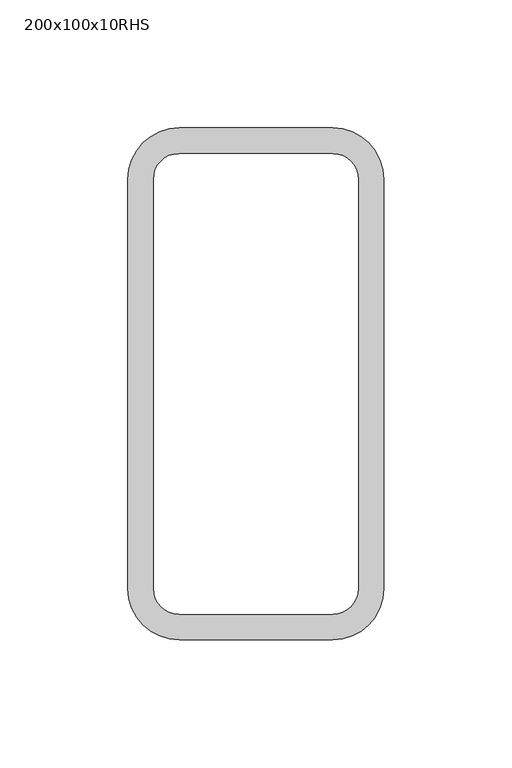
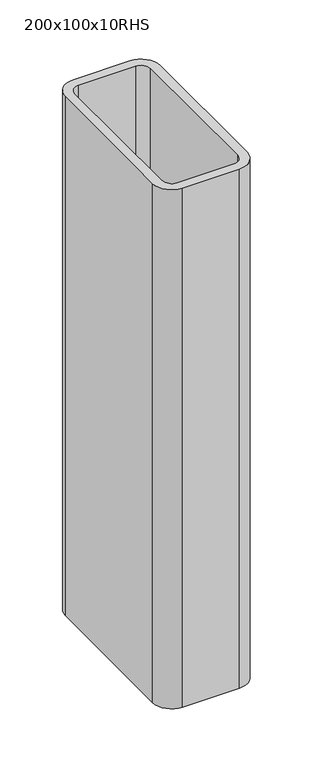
"""IFC4 building model written with IfcOpenShell, lengths in millimetres: column geometry, ППС-Прямоугольное пустотелое сечение-Колонна : 200x100x10RHS."""

from ifc_helpers import new_model, si_unit, point, frame, frame_2d, origin, place, context, project, spatial, polyline, circle_curve, trimmed, segment, composite_curve, outline, extrude, source, transform, mapped, element, save


def column_200x100x10rhs_d5a4da81(model_context):
    return source(origin(), model_context, "Body", "SweptSolid", [
        extrude(outline(composite_curve([segment(trimmed(circle_curve(frame_2d((30.0, 80.0)), 20.0), [point((30.0, 100.0))], [point((50.0, 80.0))], False, "CARTESIAN"), True, "CONTINUOUS"), segment(polyline([(50.0, 80.0), (50.0, -80.0)]), True, "CONTINUOUS"), segment(trimmed(circle_curve(frame_2d((30.0, -80.0)), 20.0), [point((50.0, -80.0))], [point((30.0, -100.0))], False, "CARTESIAN"), True, "CONTINUOUS"), segment(polyline([(30.0, -100.0), (-30.0, -100.0)]), True, "CONTINUOUS"), segment(trimmed(circle_curve(frame_2d((-30.0, -80.0)), 20.0), [point((-30.0, -100.0))], [point((-50.0, -80.0))], False, "CARTESIAN"), True, "CONTINUOUS"), segment(polyline([(-50.0, -80.0), (-50.0, 80.0)]), True, "CONTINUOUS"), segment(trimmed(circle_curve(frame_2d((-30.0, 80.0)), 20.0), [point((-50.0, 80.0))], [point((-30.0, 100.0))], False, "CARTESIAN"), True, "CONTINUOUS"), segment(polyline([(-30.0, 100.0), (30.0, 100.0)]), True, "CONTINUOUS")], self_intersect=False), holes=[composite_curve([segment(polyline([(30.0, 90.0), (-30.0, 90.0)]), True, "CONTINUOUS"), segment(trimmed(circle_curve(frame_2d((-30.0, 80.0)), 10.0), [point((-30.0, 90.0))], [point((-40.0, 80.0))], True, "CARTESIAN"), True, "CONTINUOUS"), segment(polyline([(-40.0, 80.0), (-40.0, -80.0)]), True, "CONTINUOUS"), segment(trimmed(circle_curve(frame_2d((-30.0, -80.0)), 10.0), [point((-40.0, -80.0))], [point((-30.0, -90.0))], True, "CARTESIAN"), True, "CONTINUOUS"), segment(polyline([(-30.0, -90.0), (30.0, -90.0)]), True, "CONTINUOUS"), segment(trimmed(circle_curve(frame_2d((30.0, -80.0)), 10.0), [point((30.0, -90.0))], [point((40.0, -80.0))], True, "CARTESIAN"), True, "CONTINUOUS"), segment(polyline([(40.0, -80.0), (40.0, 80.0)]), True, "CONTINUOUS"), segment(trimmed(circle_curve(frame_2d((30.0, 80.0)), 10.0), [point((40.0, 80.0))], [point((30.0, 90.0))], True, "CARTESIAN"), True, "CONTINUOUS")], self_intersect=False)]), frame((0.0, 0.0, 5245.0), z_axis=(0.0, 0.0, 1.0), x_axis=(1.0, 0.0, 0.0)), (0.0, 0.0, 1.0), 580.0),
    ])


if __name__ == "__main__":
    model = new_model("IFC4")
    model_context = context("Model", 3, world=origin())
    ifc_project = project(units=[si_unit("LENGTHUNIT", "METRE", prefix="MILLI")], contexts=[model_context])
    site = spatial("IfcSite", under=ifc_project)
    building = spatial("IfcBuilding", under=site)
    placement = place(None, origin())
    column_200x100x10rhs_shape = column_200x100x10rhs_d5a4da81(model_context)
    element("IfcColumn", 1, ObjectType="ППС-Прямоугольное пустотелое сечение-Колонна : 200x100x10RHS", at=placement, inside=building, context=model_context, shape_type="MappedRepresentation", body=[
        mapped(column_200x100x10rhs_shape, transform((0.0, 0.0, 0.0), x_axis=(1.0, 0.0, 0.0), y_axis=(0.0, 1.0, 0.0), z_axis=(0.0, 0.0, 1.0))),
    ])
    save(model, "model.ifc")
